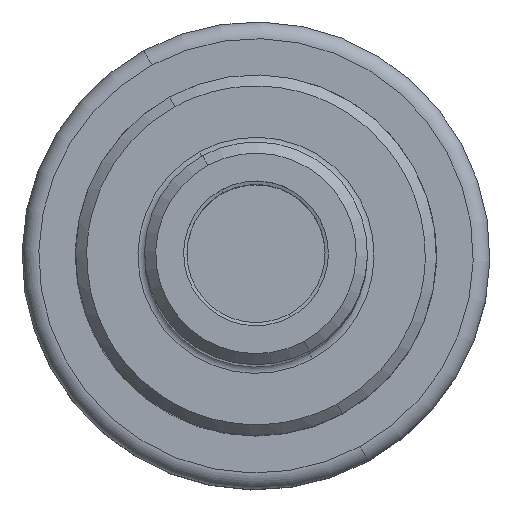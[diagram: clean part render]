
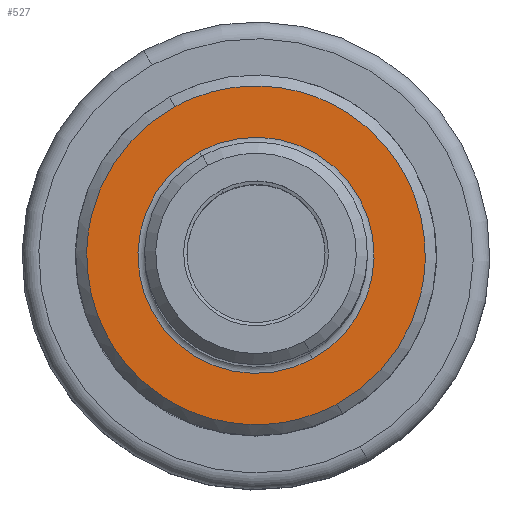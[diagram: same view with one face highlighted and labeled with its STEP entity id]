
A CAD part, top view. The second image highlights one B-rep face of the part: STEP entity #527.
In plain terms, the highlighted planar face has unit normal (0, 0, 1).
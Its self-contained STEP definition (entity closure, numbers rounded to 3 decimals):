
#424=AXIS2_PLACEMENT_3D('Circle Axis2P3D',#422,#423,$) ;
#436=AXIS2_PLACEMENT_3D('Circle Axis2P3D',#434,#435,$) ;
#449=AXIS2_PLACEMENT_3D('Plane Axis2P3D',#446,#447,#448) ;
#412=CARTESIAN_POINT('Vertex',(-5.082,9.302,-100.)) ;
#419=CARTESIAN_POINT('Vertex',(5.082,-9.302,-100.)) ;
#422=CARTESIAN_POINT('Axis2P3D Location',(0.,0.,-100.)) ;
#434=CARTESIAN_POINT('Axis2P3D Location',(0.,0.,-100.)) ;
#446=CARTESIAN_POINT('Axis2P3D Location',(0.,10.6,-100.)) ;
#452=CARTESIAN_POINT('Control Point',(7.287,-13.339,-100.)) ;
#453=CARTESIAN_POINT('Control Point',(8.63,-12.606,-100.)) ;
#454=CARTESIAN_POINT('Control Point',(9.881,-11.703,-100.)) ;
#455=CARTESIAN_POINT('Control Point',(11.011,-10.646,-100.)) ;
#456=CARTESIAN_POINT('Control Point',(12.323,-9.065,-100.)) ;
#457=CARTESIAN_POINT('Control Point',(13.347,-7.299,-100.)) ;
#458=CARTESIAN_POINT('Control Point',(13.584,-6.848,-100.)) ;
#459=CARTESIAN_POINT('Control Point',(14.213,-5.518,-100.)) ;
#460=CARTESIAN_POINT('Control Point',(14.679,-4.119,-100.)) ;
#461=CARTESIAN_POINT('Control Point',(14.91,-3.181,-100.)) ;
#462=CARTESIAN_POINT('Control Point',(15.149,-1.725,-100.)) ;
#463=CARTESIAN_POINT('Control Point',(15.211,-0.255,-100.)) ;
#464=CARTESIAN_POINT('Control Point',(15.211,0.255,-100.)) ;
#465=CARTESIAN_POINT('Control Point',(15.149,1.725,-100.)) ;
#466=CARTESIAN_POINT('Control Point',(14.91,3.181,-100.)) ;
#467=CARTESIAN_POINT('Control Point',(14.679,4.119,-100.)) ;
#468=CARTESIAN_POINT('Control Point',(13.89,6.491,-100.)) ;
#469=CARTESIAN_POINT('Control Point',(12.631,8.664,-100.)) ;
#470=CARTESIAN_POINT('Control Point',(11.692,9.893,-100.)) ;
#471=CARTESIAN_POINT('Control Point',(9.527,12.09,-100.)) ;
#472=CARTESIAN_POINT('Control Point',(6.884,13.682,-100.)) ;
#473=CARTESIAN_POINT('Control Point',(5.469,14.307,-100.)) ;
#474=CARTESIAN_POINT('Control Point',(2.511,15.186,-100.)) ;
#475=CARTESIAN_POINT('Control Point',(-0.572,15.306,-100.)) ;
#476=CARTESIAN_POINT('Control Point',(-2.113,15.17,-100.)) ;
#477=CARTESIAN_POINT('Control Point',(-4.1,14.737,-100.)) ;
#478=CARTESIAN_POINT('Control Point',(-5.976,13.989,-100.)) ;
#479=CARTESIAN_POINT('Control Point',(-6.422,13.79,-100.)) ;
#480=CARTESIAN_POINT('Control Point',(-6.859,13.573,-100.)) ;
#481=CARTESIAN_POINT('Control Point',(-7.287,13.339,-100.)) ;
#482=CARTESIAN_POINT('Vertex',(7.287,-13.339,-100.)) ;
#484=CARTESIAN_POINT('Vertex',(-7.287,13.339,-100.)) ;
#488=CARTESIAN_POINT('Control Point',(-7.287,13.339,-100.)) ;
#489=CARTESIAN_POINT('Control Point',(-8.629,12.606,-100.)) ;
#490=CARTESIAN_POINT('Control Point',(-9.879,11.704,-100.)) ;
#491=CARTESIAN_POINT('Control Point',(-11.008,10.649,-100.)) ;
#492=CARTESIAN_POINT('Control Point',(-12.321,9.068,-100.)) ;
#493=CARTESIAN_POINT('Control Point',(-13.345,7.303,-100.)) ;
#494=CARTESIAN_POINT('Control Point',(-13.583,6.851,-100.)) ;
#495=CARTESIAN_POINT('Control Point',(-14.213,5.519,-100.)) ;
#496=CARTESIAN_POINT('Control Point',(-14.679,4.119,-100.)) ;
#497=CARTESIAN_POINT('Control Point',(-14.91,3.181,-100.)) ;
#498=CARTESIAN_POINT('Control Point',(-15.149,1.725,-100.)) ;
#499=CARTESIAN_POINT('Control Point',(-15.211,0.255,-100.)) ;
#500=CARTESIAN_POINT('Control Point',(-15.211,-0.255,-100.)) ;
#501=CARTESIAN_POINT('Control Point',(-15.149,-1.725,-100.)) ;
#502=CARTESIAN_POINT('Control Point',(-14.91,-3.181,-100.)) ;
#503=CARTESIAN_POINT('Control Point',(-14.679,-4.119,-100.)) ;
#504=CARTESIAN_POINT('Control Point',(-13.89,-6.491,-100.)) ;
#505=CARTESIAN_POINT('Control Point',(-12.631,-8.664,-100.)) ;
#506=CARTESIAN_POINT('Control Point',(-11.692,-9.893,-100.)) ;
#507=CARTESIAN_POINT('Control Point',(-9.527,-12.09,-100.)) ;
#508=CARTESIAN_POINT('Control Point',(-6.884,-13.682,-100.)) ;
#509=CARTESIAN_POINT('Control Point',(-5.469,-14.307,-100.)) ;
#510=CARTESIAN_POINT('Control Point',(-2.511,-15.186,-100.)) ;
#511=CARTESIAN_POINT('Control Point',(0.572,-15.306,-100.)) ;
#512=CARTESIAN_POINT('Control Point',(2.113,-15.17,-100.)) ;
#513=CARTESIAN_POINT('Control Point',(4.1,-14.737,-100.)) ;
#514=CARTESIAN_POINT('Control Point',(5.976,-13.989,-100.)) ;
#515=CARTESIAN_POINT('Control Point',(6.422,-13.79,-100.)) ;
#516=CARTESIAN_POINT('Control Point',(6.859,-13.573,-100.)) ;
#517=CARTESIAN_POINT('Control Point',(7.287,-13.339,-100.)) ;
#423=DIRECTION('Axis2P3D Direction',(0.,0.,1.)) ;
#435=DIRECTION('Axis2P3D Direction',(0.,0.,1.)) ;
#447=DIRECTION('Axis2P3D Direction',(0.,0.,1.)) ;
#448=DIRECTION('Axis2P3D XDirection',(1.,0.,0.)) ;
#520=ORIENTED_EDGE('',*,*,#486,.T.) ;
#521=ORIENTED_EDGE('',*,*,#518,.T.) ;
#524=ORIENTED_EDGE('',*,*,#426,.F.) ;
#525=ORIENTED_EDGE('',*,*,#438,.F.) ;
#526=FACE_BOUND('',#523,.T.) ;
#527=ADVANCED_FACE('NOCUT',(#522,#526),#450,.T.) ;
#451=B_SPLINE_CURVE_WITH_KNOTS('',5,(#452,#453,#454,#455,#456,#457,#458,#459,#460,#461,#462,#463,#464,#465,#466,#467,#468,#469,#470,#471,#472,#473,#474,#475,#476,#477,#478,#479,#480,#481),.UNSPECIFIED.,.F.,.U.,(6,3,3,3,3,3,3,3,3,6),(68.651,79.652,83.309,90.221,93.88,100.792,111.793,122.795,133.797,137.302),.UNSPECIFIED.) ;
#487=B_SPLINE_CURVE_WITH_KNOTS('',5,(#488,#489,#490,#491,#492,#493,#494,#495,#496,#497,#498,#499,#500,#501,#502,#503,#504,#505,#506,#507,#508,#509,#510,#511,#512,#513,#514,#515,#516,#517),.UNSPECIFIED.,.F.,.U.,(6,3,3,3,3,3,3,3,3,6),(0.,10.992,14.658,21.57,25.229,32.141,43.142,54.144,65.146,68.651),.UNSPECIFIED.) ;
#425=CIRCLE('generated circle',#424,10.6) ;
#437=CIRCLE('generated circle',#436,10.6) ;
#426=EDGE_CURVE('',#420,#413,#425,.T.) ;
#438=EDGE_CURVE('',#413,#420,#437,.T.) ;
#486=EDGE_CURVE('',#483,#485,#451,.T.) ;
#518=EDGE_CURVE('',#485,#483,#487,.T.) ;
#519=EDGE_LOOP('',(#520,#521)) ;
#523=EDGE_LOOP('',(#524,#525)) ;
#522=FACE_OUTER_BOUND('',#519,.T.) ;
#450=PLANE('',#449) ;
#413=VERTEX_POINT('',#412) ;
#420=VERTEX_POINT('',#419) ;
#483=VERTEX_POINT('',#482) ;
#485=VERTEX_POINT('',#484) ;
